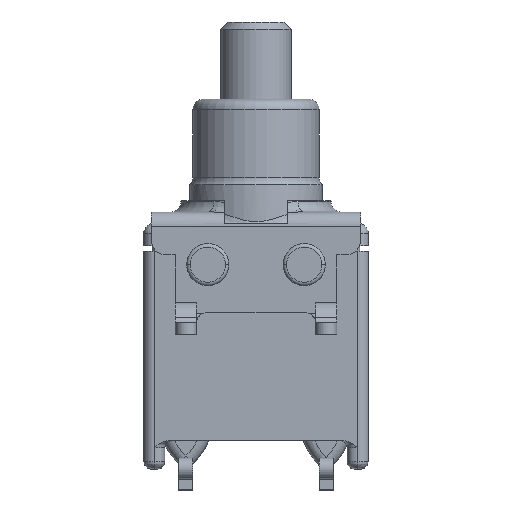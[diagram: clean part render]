
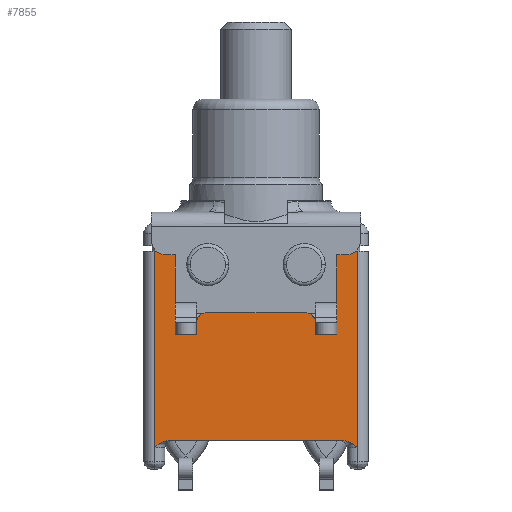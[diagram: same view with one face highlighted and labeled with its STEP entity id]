
A CAD part, top view. The second image highlights one B-rep face of the part: STEP entity #7855.
In plain terms, the highlighted planar face has unit normal (0, 0, 1).
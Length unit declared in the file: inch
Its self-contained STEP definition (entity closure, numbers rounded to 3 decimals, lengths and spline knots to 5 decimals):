
#2445=DIRECTION('',(1.,0.,0.));
#2446=VECTOR('',#2445,0.25);
#2447=CARTESIAN_POINT('',(-0.125,-0.068,0.1));
#2448=LINE('',#2447,#2446);
#2449=DIRECTION('',(0.,1.,0.));
#2450=VECTOR('',#2449,0.28);
#2451=CARTESIAN_POINT('',(-0.145,-0.078,0.1));
#2452=LINE('',#2451,#2450);
#2453=DIRECTION('',(-1.,0.,0.));
#2454=VECTOR('',#2453,0.29);
#2455=CARTESIAN_POINT('',(0.145,0.202,0.1));
#2456=LINE('',#2455,#2454);
#2457=DIRECTION('',(0.,-1.,0.));
#2458=VECTOR('',#2457,0.28);
#2459=CARTESIAN_POINT('',(0.145,0.202,0.1));
#2460=LINE('',#2459,#2458);
#2887=CARTESIAN_POINT('',(0.145,-0.078,0.1));
#2888=CARTESIAN_POINT('',(0.1437,-0.07694,0.1));
#2889=CARTESIAN_POINT('',(0.1412,-0.0749,0.1));
#2890=CARTESIAN_POINT('',(0.13759,-0.07229,0.1));
#2891=CARTESIAN_POINT('',(0.13413,-0.07029,0.1));
#2892=CARTESIAN_POINT('',(0.13083,-0.06891,0.1));
#2893=CARTESIAN_POINT('',(0.12775,-0.06815,0.1));
#2894=CARTESIAN_POINT('',(0.12589,-0.068,0.1));
#2895=CARTESIAN_POINT('',(0.125,-0.068,0.1));
#3350=CARTESIAN_POINT('',(-0.125,-0.068,0.1));
#3351=CARTESIAN_POINT('',(-0.12589,-0.068,0.1));
#3352=CARTESIAN_POINT('',(-0.12775,-0.06815,0.1));
#3353=CARTESIAN_POINT('',(-0.13083,-0.06891,0.1));
#3354=CARTESIAN_POINT('',(-0.13413,-0.07029,0.1));
#3355=CARTESIAN_POINT('',(-0.13759,-0.07229,0.1));
#3356=CARTESIAN_POINT('',(-0.1412,-0.0749,0.1));
#3357=CARTESIAN_POINT('',(-0.1437,-0.07694,0.1));
#3358=CARTESIAN_POINT('',(-0.145,-0.078,0.1));
#3845=CARTESIAN_POINT('',(0.145,0.202,0.1));
#3847=VERTEX_POINT('',#3845);
#3850=CARTESIAN_POINT('',(-0.145,0.202,0.1));
#3852=VERTEX_POINT('',#3850);
#3905=VERTEX_POINT('',#2887);
#3906=VERTEX_POINT('',#2895);
#3913=VERTEX_POINT('',#3350);
#3914=VERTEX_POINT('',#3358);
#7838=CARTESIAN_POINT('',(0.,0.,0.1));
#7839=DIRECTION('',(0.,0.,1.));
#7840=DIRECTION('',(1.,0.,0.));
#7841=AXIS2_PLACEMENT_3D('',#7838,#7839,#7840);
#7842=PLANE('',#7841);
#7844=ORIENTED_EDGE('',*,*,#7843,.F.);
#7846=ORIENTED_EDGE('',*,*,#7845,.T.);
#7848=ORIENTED_EDGE('',*,*,#7847,.T.);
#7849=ORIENTED_EDGE('',*,*,#7783,.F.);
#7850=ORIENTED_EDGE('',*,*,#7822,.T.);
#7852=ORIENTED_EDGE('',*,*,#7851,.T.);
#7853=EDGE_LOOP('',(#7844,#7846,#7848,#7849,#7850,#7852));
#7854=FACE_OUTER_BOUND('',#7853,.F.);
#7855=ADVANCED_FACE('',(#7854),#7842,.T.);
#2896=B_SPLINE_CURVE_WITH_KNOTS('',3,(#2887,#2888,#2889,#2890,#2891,#2892,#2893,
#2894,#2895),.UNSPECIFIED.,.F.,.F.,(4,1,1,1,1,1,4),(0.,0.16667,
0.33333,0.5,0.66667,0.83333,1.),
.UNSPECIFIED.);
#3359=B_SPLINE_CURVE_WITH_KNOTS('',3,(#3350,#3351,#3352,#3353,#3354,#3355,#3356,
#3357,#3358),.UNSPECIFIED.,.F.,.F.,(4,1,1,1,1,1,4),(0.,0.16667,
0.33333,0.5,0.66667,0.83333,1.),
.UNSPECIFIED.);
#7783=EDGE_CURVE('',#3847,#3852,#2456,.T.);
#7822=EDGE_CURVE('',#3847,#3905,#2460,.T.);
#7843=EDGE_CURVE('',#3913,#3906,#2448,.T.);
#7845=EDGE_CURVE('',#3913,#3914,#3359,.T.);
#7847=EDGE_CURVE('',#3914,#3852,#2452,.T.);
#7851=EDGE_CURVE('',#3905,#3906,#2896,.T.);
